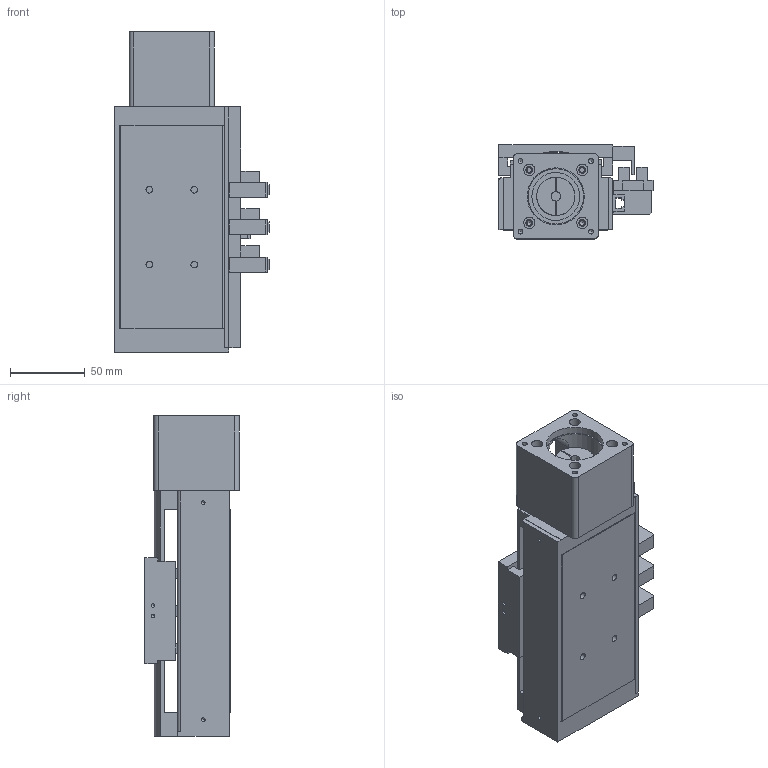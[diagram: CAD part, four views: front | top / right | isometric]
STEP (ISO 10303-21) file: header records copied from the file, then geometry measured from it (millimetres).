
FILE_DESCRIPTION((''),'2;1');
FILE_NAME('E:\uia actuator\UIA actuator 3d- 2009\Standard ball screw actuator\UIA076R9DC\UIA076R9DC-STEP file\with motor mount\UIA076R9DC step file 18Apr16\UIA076R9DC-050-R1205(or R1210)-M23-P13-C10-S.stp','2016-04-18T17:12:47',('h029'),(''),'Autodesk Inventor 11','Autodesk Inventor 11','');
FILE_SCHEMA(('AUTOMOTIVE_DESIGN { 1 0 10303 214 1 1 1 1 }'));
Length unit declared in the file: millimetre
Products named in the file (10): UIA076R9DC-050-R1205(or R1210)-M23-P13-C10-S; UIA076R9DC-50-BODY; UIA076R9DC-50-sensor rail; UIA076R9DC-CARRIAGE; UIA076R9DC-SENSOR FLAG; 01-100 0110 Motor MOUNT-M23; SOH25C; side 2; side 1; centre piece
Assembly tree (9 placements, depth 3):
  UIA076R9DC-050-R1205(or R1210)-M23-P13-C10-S
    UIA076R9DC-50-BODY
    UIA076R9DC-50-sensor rail
    UIA076R9DC-CARRIAGE
    UIA076R9DC-SENSOR FLAG
    01-100 0110 Motor MOUNT-M23
    SOH25C
      side 2
      side 1
      centre piece
Bounding box: 103 x 63 x 214 mm (x, y, z)
Volume: 449763 mm3; surface area: 162205.7 mm2
Topology: 8 solids, 8 shells, 392 faces, 1119 edges, 736 vertices
Faces by surface type: plane 279, cylinder 85, cone 21, bspline 7
Full cylindrical faces by diameter (mm): 2.459 x8, 3 x2, 3.242 x16, 3.5 x4, 4 x6, 4.5 x8, 6 x2, 7.5 x8, 22 x1, 25.5 x3, 32 x1, 37 x1, 38.1 x1
Entity records: 12690 total; most frequent: CARTESIAN_POINT 2556, DIRECTION 1994, ORIENTED_EDGE 1968, EDGE_CURVE 984, VECTOR 760, LINE 760, VERTEX_POINT 689, AXIS2_PLACEMENT_3D 617
